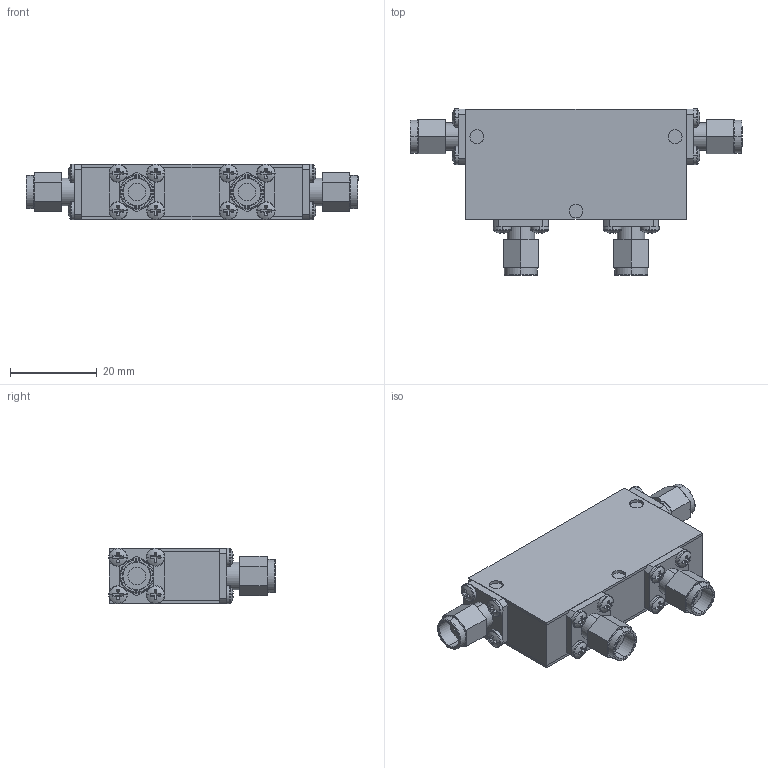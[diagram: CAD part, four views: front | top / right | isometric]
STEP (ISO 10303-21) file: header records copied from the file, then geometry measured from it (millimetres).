
FILE_DESCRIPTION (( 'STEP AP214' ), '1' );
FILE_NAME ('Package 14 Circ MMMM.step', '2021-12-01T20:58:01', ( '' ), ( '' ), 'SwSTEP 2.0', 'SolidWorks 2016', '' );
FILE_SCHEMA (( 'AUTOMOTIVE_DESIGN' ));
Length unit declared in the file: inch
Products named in the file (5): Package 14; Package Size 14; Delta SMA-Male; Package 14 Circ MMMM; pan cross head_ai_CR-PHMS 0.086-56x0.125x0.125-N
Assembly tree (22 placements, depth 2):
  Package 14 Circ MMMM
    Package 14
    pan cross head_ai_CR-PHMS 0.086-56x0.125x0.125-N  x16
    Delta SMA-Male  x4
    Package Size 14
Bounding box: 76.56 x 38.37 x 12.88 mm (x, y, z)
Volume: 18878.2 mm3; surface area: 15314.4 mm2
Topology: 22 solids, 22 shells, 584 faces, 1328 edges, 816 vertices
Faces by surface type: plane 340, cylinder 156, torus 56, sphere 32
Entity records: 3288 total; most frequent: DIRECTION 594, CARTESIAN_POINT 509, ORIENTED_EDGE 472, EDGE_CURVE 236, AXIS2_PLACEMENT_3D 235, VERTEX_POINT 150, LINE 124, EDGE_LOOP 124
